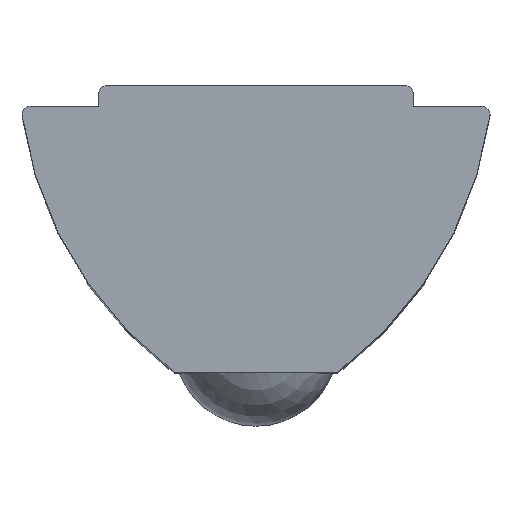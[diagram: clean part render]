
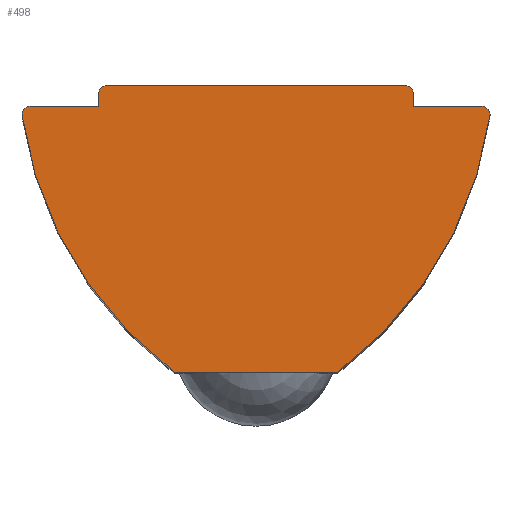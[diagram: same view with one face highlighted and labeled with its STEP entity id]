
A CAD part, top view. The second image highlights one B-rep face of the part: STEP entity #498.
In plain terms, the highlighted planar face has unit normal (0, 0, 1).
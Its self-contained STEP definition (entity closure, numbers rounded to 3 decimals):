
#2 = DIRECTION ( 'NONE',  ( 1., 0., 0. ) ) ;
#7 = EDGE_CURVE ( 'NONE', #614, #48, #474, .T. ) ;
#18 = EDGE_CURVE ( 'NONE', #217, #824, #556, .T. ) ;
#21 = CARTESIAN_POINT ( 'NONE',  ( -5.522, 6.3, 10. ) ) ;
#36 = EDGE_LOOP ( 'NONE', ( #81, #207, #171, #184, #37, #168, #154, #155, #143, #142, #108, #363, #123 ) ) ;
#37 = ORIENTED_EDGE ( 'NONE', *, *, #162, .T. ) ;
#48 = VERTEX_POINT ( 'NONE', #84 ) ;
#53 = LINE ( 'NONE', #871, #738 ) ;
#57 = EDGE_CURVE ( 'NONE', #141, #282, #602, .T. ) ;
#63 = EDGE_CURVE ( 'NONE', #614, #197, #233, .T. ) ;
#72 = CARTESIAN_POINT ( 'NONE',  ( -5.522, 6.5, 10. ) ) ;
#73 = EDGE_CURVE ( 'NONE', #824, #100, #412, .T. ) ;
#78 = EDGE_CURVE ( 'NONE', #141, #615, #551, .T. ) ;
#81 = ORIENTED_EDGE ( 'NONE', *, *, #78, .F. ) ;
#84 = CARTESIAN_POINT ( 'NONE',  ( 5.522, 6.5, 10. ) ) ;
#87 = DIRECTION ( 'NONE',  ( 1., 0., 0. ) ) ;
#100 = VERTEX_POINT ( 'NONE', #482 ) ;
#108 = ORIENTED_EDGE ( 'NONE', *, *, #73, .T. ) ;
#123 = ORIENTED_EDGE ( 'NONE', *, *, #214, .F. ) ;
#141 = VERTEX_POINT ( 'NONE', #72 ) ;
#142 = ORIENTED_EDGE ( 'NONE', *, *, #18, .T. ) ;
#143 = ORIENTED_EDGE ( 'NONE', *, *, #209, .T. ) ;
#154 = ORIENTED_EDGE ( 'NONE', *, *, #7, .T. ) ;
#155 = ORIENTED_EDGE ( 'NONE', *, *, #306, .T. ) ;
#162 = EDGE_CURVE ( 'NONE', #431, #197, #842, .T. ) ;
#166 = VERTEX_POINT ( 'NONE', #568 ) ;
#168 = ORIENTED_EDGE ( 'NONE', *, *, #63, .F. ) ;
#171 = ORIENTED_EDGE ( 'NONE', *, *, #538, .T. ) ;
#184 = ORIENTED_EDGE ( 'NONE', *, *, #253, .T. ) ;
#197 = VERTEX_POINT ( 'NONE', #894 ) ;
#207 = ORIENTED_EDGE ( 'NONE', *, *, #57, .T. ) ;
#209 = EDGE_CURVE ( 'NONE', #647, #217, #893, .T. ) ;
#214 = EDGE_CURVE ( 'NONE', #615, #166, #53, .T. ) ;
#216 = DIRECTION ( 'NONE',  ( 1., 0., 0. ) ) ;
#217 = VERTEX_POINT ( 'NONE', #869 ) ;
#221 = DIRECTION ( 'NONE',  ( 0., 0., 1. ) ) ;
#226 = CARTESIAN_POINT ( 'NONE',  ( 3.65, 6.8, 10. ) ) ;
#233 = CIRCLE ( 'NONE', #732, 9.5 ) ;
#253 = EDGE_CURVE ( 'NONE', #274, #431, #817, .T. ) ;
#254 = AXIS2_PLACEMENT_3D ( 'NONE', #458, #485, #452 ) ;
#274 = VERTEX_POINT ( 'NONE', #800 ) ;
#282 = VERTEX_POINT ( 'NONE', #741 ) ;
#306 = EDGE_CURVE ( 'NONE', #48, #647, #480, .T. ) ;
#319 = AXIS2_PLACEMENT_3D ( 'NONE', #425, #422, #419 ) ;
#336 = CARTESIAN_POINT ( 'NONE',  ( 3.65, 7., 10. ) ) ;
#363 = ORIENTED_EDGE ( 'NONE', *, *, #380, .T. ) ;
#369 = DIRECTION ( 'NONE',  ( -1., 0., 0. ) ) ;
#380 = EDGE_CURVE ( 'NONE', #100, #166, #623, .T. ) ;
#391 = CARTESIAN_POINT ( 'NONE',  ( 3.85, 6.5, 10. ) ) ;
#404 = CARTESIAN_POINT ( 'NONE',  ( -3.85, 6.5, 10. ) ) ;
#405 = CARTESIAN_POINT ( 'NONE',  ( 5.72, 6.272, 10. ) ) ;
#406 = FACE_OUTER_BOUND ( 'NONE', #36, .T. ) ;
#407 = AXIS2_PLACEMENT_3D ( 'NONE', #511, #509, #508 ) ;
#412 = LINE ( 'NONE', #598, #742 ) ;
#414 = DIRECTION ( 'NONE',  ( 1., 0., 0. ) ) ;
#419 = DIRECTION ( 'NONE',  ( 1., 0., 0. ) ) ;
#422 = DIRECTION ( 'NONE',  ( 0., 0., 1. ) ) ;
#425 = CARTESIAN_POINT ( 'NONE',  ( -5.522, 6.3, 10. ) ) ;
#431 = VERTEX_POINT ( 'NONE', #471 ) ;
#452 = DIRECTION ( 'NONE',  ( 1., 0., 0. ) ) ;
#458 = CARTESIAN_POINT ( 'NONE',  ( 0., 0., 10. ) ) ;
#462 = PLANE ( 'NONE',  #254 ) ;
#471 = CARTESIAN_POINT ( 'NONE',  ( -2., 0., 10. ) ) ;
#474 = CIRCLE ( 'NONE', #794, 0.2 ) ;
#480 = LINE ( 'NONE', #719, #574 ) ;
#482 = CARTESIAN_POINT ( 'NONE',  ( -3.65, 7., 10. ) ) ;
#485 = DIRECTION ( 'NONE',  ( 0., 0., 1. ) ) ;
#498 = ADVANCED_FACE ( 'NONE', ( #406 ), #462, .T. ) ;
#508 = DIRECTION ( 'NONE',  ( 1., 0., 0. ) ) ;
#509 = DIRECTION ( 'NONE',  ( 0., 0., 1. ) ) ;
#511 = CARTESIAN_POINT ( 'NONE',  ( -3.65, 6.8, 10. ) ) ;
#538 = EDGE_CURVE ( 'NONE', #282, #274, #879, .T. ) ;
#540 = VECTOR ( 'NONE', #878, 1000. ) ;
#551 = LINE ( 'NONE', #586, #553 ) ;
#553 = VECTOR ( 'NONE', #414, 1000. ) ;
#556 = CIRCLE ( 'NONE', #779, 0.2 ) ;
#564 = CARTESIAN_POINT ( 'NONE',  ( -3.685, 7.611, 10. ) ) ;
#568 = CARTESIAN_POINT ( 'NONE',  ( -3.85, 6.8, 10. ) ) ;
#574 = VECTOR ( 'NONE', #712, 1000. ) ;
#586 = CARTESIAN_POINT ( 'NONE',  ( 0., 6.5, 10. ) ) ;
#598 = CARTESIAN_POINT ( 'NONE',  ( 0., 7., 10. ) ) ;
#602 = CIRCLE ( 'NONE', #747, 0.2 ) ;
#614 = VERTEX_POINT ( 'NONE', #405 ) ;
#615 = VERTEX_POINT ( 'NONE', #404 ) ;
#617 = DIRECTION ( 'NONE',  ( 1., 0., 0. ) ) ;
#623 = CIRCLE ( 'NONE', #407, 0.2 ) ;
#629 = DIRECTION ( 'NONE',  ( 0., 0., 1. ) ) ;
#647 = VERTEX_POINT ( 'NONE', #391 ) ;
#648 = CARTESIAN_POINT ( 'NONE',  ( 5.522, 6.3, 10. ) ) ;
#672 = VECTOR ( 'NONE', #880, 1000. ) ;
#684 = AXIS2_PLACEMENT_3D ( 'NONE', #799, #798, #797 ) ;
#712 = DIRECTION ( 'NONE',  ( -1., 0., 0. ) ) ;
#719 = CARTESIAN_POINT ( 'NONE',  ( 0., 6.5, 10. ) ) ;
#726 = CARTESIAN_POINT ( 'NONE',  ( 0., 0., 10. ) ) ;
#732 = AXIS2_PLACEMENT_3D ( 'NONE', #564, #895, #87 ) ;
#738 = VECTOR ( 'NONE', #868, 1000. ) ;
#741 = CARTESIAN_POINT ( 'NONE',  ( -5.722, 6.3, 10. ) ) ;
#742 = VECTOR ( 'NONE', #369, 1000. ) ;
#747 = AXIS2_PLACEMENT_3D ( 'NONE', #21, #873, #2 ) ;
#779 = AXIS2_PLACEMENT_3D ( 'NONE', #226, #221, #216 ) ;
#794 = AXIS2_PLACEMENT_3D ( 'NONE', #648, #629, #617 ) ;
#797 = DIRECTION ( 'NONE',  ( 1., 0., 0. ) ) ;
#798 = DIRECTION ( 'NONE',  ( 0., 0., 1. ) ) ;
#799 = CARTESIAN_POINT ( 'NONE',  ( 3.685, 7.611, 10. ) ) ;
#800 = CARTESIAN_POINT ( 'NONE',  ( -5.72, 6.272, 10. ) ) ;
#817 = CIRCLE ( 'NONE', #684, 9.5 ) ;
#824 = VERTEX_POINT ( 'NONE', #336 ) ;
#842 = LINE ( 'NONE', #726, #672 ) ;
#868 = DIRECTION ( 'NONE',  ( 0., 1., 0. ) ) ;
#869 = CARTESIAN_POINT ( 'NONE',  ( 3.85, 6.8, 10. ) ) ;
#871 = CARTESIAN_POINT ( 'NONE',  ( -3.85, 0., 10. ) ) ;
#873 = DIRECTION ( 'NONE',  ( 0., 0., 1. ) ) ;
#878 = DIRECTION ( 'NONE',  ( 0., 1., 0. ) ) ;
#879 = CIRCLE ( 'NONE', #319, 0.2 ) ;
#880 = DIRECTION ( 'NONE',  ( 1., 0., 0. ) ) ;
#882 = CARTESIAN_POINT ( 'NONE',  ( 3.85, 0., 10. ) ) ;
#893 = LINE ( 'NONE', #882, #540 ) ;
#894 = CARTESIAN_POINT ( 'NONE',  ( 2., 0., 10. ) ) ;
#895 = DIRECTION ( 'NONE',  ( 0., 0., -1. ) ) ;
